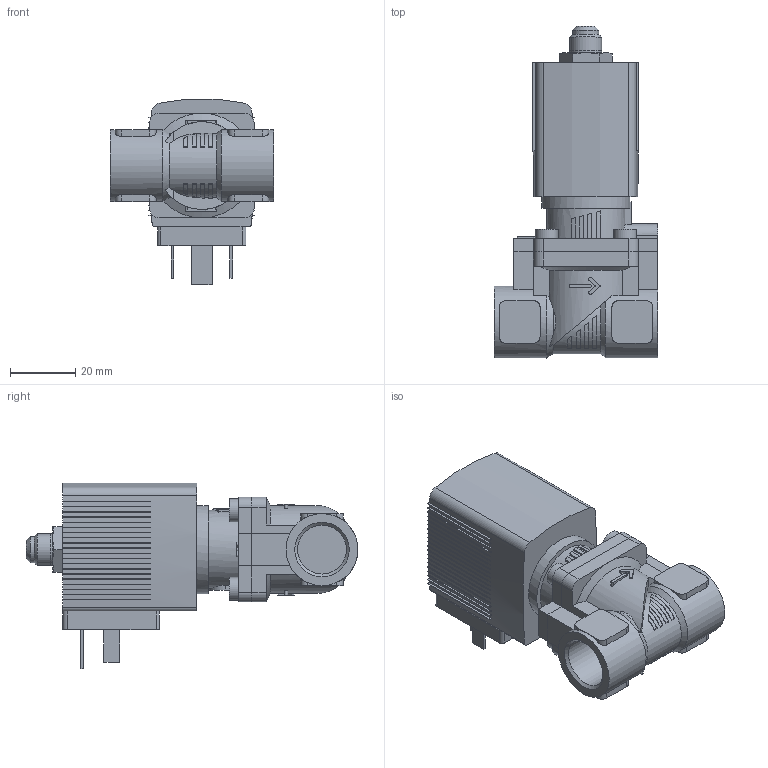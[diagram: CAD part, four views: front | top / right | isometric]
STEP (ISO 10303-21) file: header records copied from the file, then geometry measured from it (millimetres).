
FILE_DESCRIPTION(/* description */ ('STEP AP214'),/* implementation_level */ '2;1');
FILE_NAME(/* name */ '6281-330986-2_2-Way_Solenoid_Valve__Servo-assisted__General_Purpose',/* time_stamp */ '2024-05-17T06:24:36+02:00',/* author */ ('License CC BY-ND 4.0'),/* organization */ ('CADENAS'),/* preprocessor_version */ 'ST-DEVELOPER v19.3',/* originating_system */ 'PARTsolutions',/* authorisation */ ' ');
FILE_SCHEMA (('AUTOMOTIVE_DESIGN { 1 0 10303 214 3 1 1 }','PROCESS_PLANNING_SCHEMA','AUTOMOTIVE_DESIGN {1 0 10303 214 3 1 1}'));
Length unit declared in the file: millimetre
Products named in the file (4): 6281-330986-2/2-Way Solenoid Valve, Servo-assisted, General Purpose; 5281ev100MS2/2-Wege-Magnetventil mit Servomembran-Deckel   ; 6213-10G3/8MS-Gehaeuse-; AC10ex-5OO-Gewinde-Coil
Assembly tree (3 placements, depth 2):
  6281-330986-2/2-Way Solenoid Valve, Servo-assisted, General Purpose
    5281ev100MS2/2-Wege-Magnetventil mit Servomembran-Deckel   
    6213-10G3/8MS-Gehaeuse-
    AC10ex-5OO-Gewinde-Coil
Bounding box: 50 x 101.5 x 56.84 mm (x, y, z)
Volume: 91586.9 mm3; surface area: 23344 mm2
Topology: 3 solids, 3 shells, 529 faces, 1458 edges, 967 vertices
Faces by surface type: plane 426, cylinder 88, cone 15
Full cylindrical faces by diameter (mm): 2.013 x1, 2.7 x1, 7 x4, 8 x1, 9.73 x1, 9.74 x1, 14.95 x2, 22 x1, 27 x1
Entity records: 19381 total; most frequent: CARTESIAN_POINT 3163, ORIENTED_EDGE 2862, DIRECTION 2752, EDGE_CURVE 1431, LINE 1050, VECTOR 1050, VERTEX_POINT 958, AXIS2_PLACEMENT_3D 851
